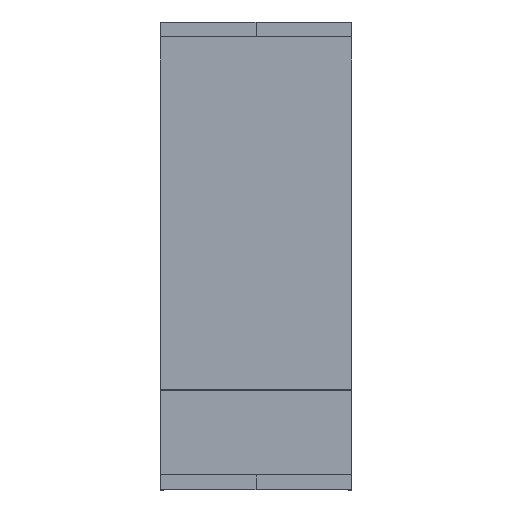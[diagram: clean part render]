
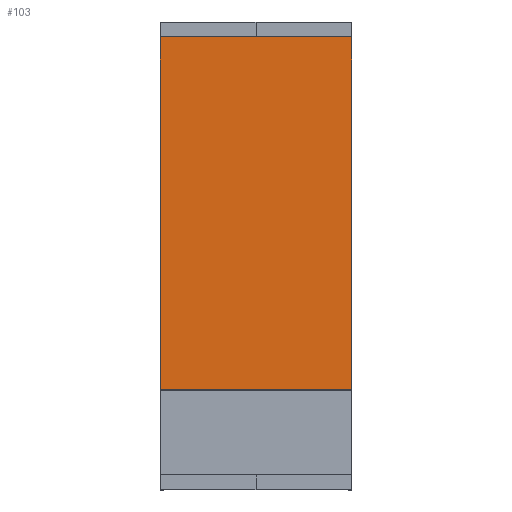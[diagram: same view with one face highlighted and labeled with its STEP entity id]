
A CAD part, top view. The second image highlights one B-rep face of the part: STEP entity #103.
In plain terms, the highlighted planar face has unit normal (0, 0, 1).
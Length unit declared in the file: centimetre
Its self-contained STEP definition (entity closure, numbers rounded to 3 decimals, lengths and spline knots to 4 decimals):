
#103=ADVANCED_FACE($,(#269),#1999,.T.);
#269=FACE_OUTER_BOUND($,#435,.T.);
#435=EDGE_LOOP($,(#802,#803,#804,#805));
#802=ORIENTED_EDGE($,*,*,#1435,.F.);
#803=ORIENTED_EDGE($,*,*,#1434,.F.);
#804=ORIENTED_EDGE($,*,*,#1433,.F.);
#805=ORIENTED_EDGE($,*,*,#1432,.F.);
#1432=EDGE_CURVE($,#1774,#1775,#2228,.T.);
#1433=EDGE_CURVE($,#1775,#1776,#2229,.T.);
#1434=EDGE_CURVE($,#1776,#1777,#2230,.T.);
#1435=EDGE_CURVE($,#1777,#1774,#2231,.T.);
#1774=VERTEX_POINT($,#3304);
#1775=VERTEX_POINT($,#3305);
#1776=VERTEX_POINT($,#3306);
#1777=VERTEX_POINT($,#3307);
#1999=PLANE($,#2633);
#2228=B_SPLINE_CURVE_WITH_KNOTS($,1,(#3278,#3279),.UNSPECIFIED.,.F.,.F.,
(2,2),(0.,166.),.UNSPECIFIED.);
#2229=B_SPLINE_CURVE_WITH_KNOTS($,1,(#3280,#3281),.UNSPECIFIED.,.F.,.F.,
(2,2),(0.,89.9),.UNSPECIFIED.);
#2230=B_SPLINE_CURVE_WITH_KNOTS($,1,(#3282,#3283),.UNSPECIFIED.,.F.,.F.,
(2,2),(0.,166.),.UNSPECIFIED.);
#2231=B_SPLINE_CURVE_WITH_KNOTS($,1,(#3284,#3285),.UNSPECIFIED.,.F.,.F.,
(2,2),(0.,89.9),.UNSPECIFIED.);
#2633=AXIS2_PLACEMENT_3D($,#3299,#2802,$);
#2802=DIRECTION($,(0.,0.,1.));
#3278=CARTESIAN_POINT($,(-182.95,-273.,74.51));
#3279=CARTESIAN_POINT($,(-182.95,-107.,74.51));
#3280=CARTESIAN_POINT($,(-182.95,-107.,74.51));
#3281=CARTESIAN_POINT($,(-93.05,-107.,74.51));
#3282=CARTESIAN_POINT($,(-93.05,-107.,74.51));
#3283=CARTESIAN_POINT($,(-93.05,-273.,74.51));
#3284=CARTESIAN_POINT($,(-93.05,-273.,74.51));
#3285=CARTESIAN_POINT($,(-182.95,-273.,74.51));
#3299=CARTESIAN_POINT($,(-182.95,-273.,74.51));
#3304=CARTESIAN_POINT($,(-182.95,-273.,74.51));
#3305=CARTESIAN_POINT($,(-182.95,-107.,74.51));
#3306=CARTESIAN_POINT($,(-93.05,-107.,74.51));
#3307=CARTESIAN_POINT($,(-93.05,-273.,74.51));
